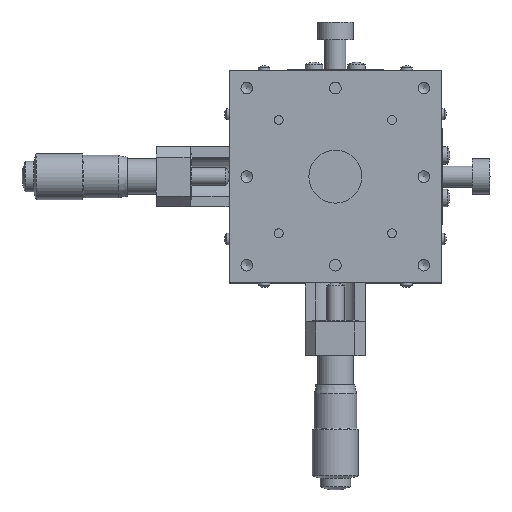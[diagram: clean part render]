
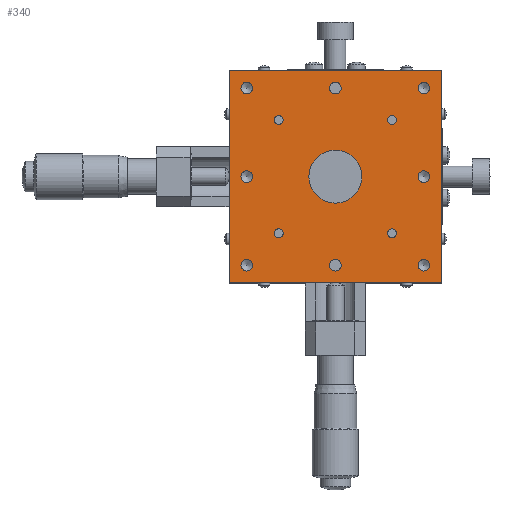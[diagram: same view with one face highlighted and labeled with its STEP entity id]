
A CAD part, top view. The second image highlights one B-rep face of the part: STEP entity #340.
In plain terms, the highlighted planar face has unit normal (0, 0, 1).
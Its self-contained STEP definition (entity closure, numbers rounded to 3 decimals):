
#340 = ADVANCED_FACE( '', ( #871, #872, #873, #874, #875, #876, #877, #878, #879, #880, #881, #882, #883, #884 ), #885, .T. );
#871 = FACE_BOUND( '', #1720, .T. );
#872 = FACE_BOUND( '', #1721, .T. );
#873 = FACE_BOUND( '', #1722, .T. );
#874 = FACE_BOUND( '', #1723, .T. );
#875 = FACE_BOUND( '', #1724, .T. );
#876 = FACE_BOUND( '', #1725, .T. );
#877 = FACE_BOUND( '', #1726, .T. );
#878 = FACE_BOUND( '', #1727, .T. );
#879 = FACE_BOUND( '', #1728, .T. );
#880 = FACE_BOUND( '', #1729, .T. );
#881 = FACE_BOUND( '', #1730, .T. );
#882 = FACE_BOUND( '', #1731, .T. );
#883 = FACE_OUTER_BOUND( '', #1732, .T. );
#884 = FACE_BOUND( '', #1733, .T. );
#885 = PLANE( '', #1734 );
#1720 = EDGE_LOOP( '', ( #2670 ) );
#1721 = EDGE_LOOP( '', ( #2671 ) );
#1722 = EDGE_LOOP( '', ( #2672 ) );
#1723 = EDGE_LOOP( '', ( #2673 ) );
#1724 = EDGE_LOOP( '', ( #2674 ) );
#1725 = EDGE_LOOP( '', ( #2675 ) );
#1726 = EDGE_LOOP( '', ( #2676 ) );
#1727 = EDGE_LOOP( '', ( #2677 ) );
#1728 = EDGE_LOOP( '', ( #2678 ) );
#1729 = EDGE_LOOP( '', ( #2679 ) );
#1730 = EDGE_LOOP( '', ( #2680 ) );
#1731 = EDGE_LOOP( '', ( #2681 ) );
#1732 = EDGE_LOOP( '', ( #2682, #2683, #2684, #2685 ) );
#1733 = EDGE_LOOP( '', ( #2686 ) );
#1734 = AXIS2_PLACEMENT_3D( '', #2687, #2688, #2689 );
#2670 = ORIENTED_EDGE( '', *, *, #4367, .T. );
#2671 = ORIENTED_EDGE( '', *, *, #4368, .T. );
#2672 = ORIENTED_EDGE( '', *, *, #4369, .T. );
#2673 = ORIENTED_EDGE( '', *, *, #4370, .T. );
#2674 = ORIENTED_EDGE( '', *, *, #4371, .T. );
#2675 = ORIENTED_EDGE( '', *, *, #4372, .T. );
#2676 = ORIENTED_EDGE( '', *, *, #4373, .T. );
#2677 = ORIENTED_EDGE( '', *, *, #4374, .T. );
#2678 = ORIENTED_EDGE( '', *, *, #4375, .T. );
#2679 = ORIENTED_EDGE( '', *, *, #4376, .T. );
#2680 = ORIENTED_EDGE( '', *, *, #4377, .T. );
#2681 = ORIENTED_EDGE( '', *, *, #4378, .T. );
#2682 = ORIENTED_EDGE( '', *, *, #4379, .T. );
#2683 = ORIENTED_EDGE( '', *, *, #4283, .T. );
#2684 = ORIENTED_EDGE( '', *, *, #4333, .T. );
#2685 = ORIENTED_EDGE( '', *, *, #4257, .T. );
#2686 = ORIENTED_EDGE( '', *, *, #4380, .T. );
#2687 = CARTESIAN_POINT( '', ( 0., 0., 22. ) );
#2688 = DIRECTION( '', ( 0., 0., 1. ) );
#2689 = DIRECTION( '', ( -1., 0., 0. ) );
#4257 = EDGE_CURVE( '', #4953, #4951, #4954, .T. );
#4283 = EDGE_CURVE( '', #5002, #5000, #5003, .T. );
#4333 = EDGE_CURVE( '', #5000, #4953, #5087, .T. );
#4367 = EDGE_CURVE( '', #5145, #5145, #5146, .T. );
#4368 = EDGE_CURVE( '', #5147, #5147, #5148, .T. );
#4369 = EDGE_CURVE( '', #5149, #5149, #5150, .T. );
#4370 = EDGE_CURVE( '', #5151, #5151, #5152, .T. );
#4371 = EDGE_CURVE( '', #5153, #5153, #5154, .T. );
#4372 = EDGE_CURVE( '', #5155, #5155, #5156, .T. );
#4373 = EDGE_CURVE( '', #5157, #5157, #5158, .T. );
#4374 = EDGE_CURVE( '', #5159, #5159, #5160, .T. );
#4375 = EDGE_CURVE( '', #5161, #5161, #5162, .T. );
#4376 = EDGE_CURVE( '', #5163, #5163, #5164, .T. );
#4377 = EDGE_CURVE( '', #5165, #5165, #5166, .T. );
#4378 = EDGE_CURVE( '', #5167, #5167, #5168, .T. );
#4379 = EDGE_CURVE( '', #4951, #5002, #5169, .T. );
#4380 = EDGE_CURVE( '', #5170, #5170, #5171, .T. );
#4951 = VERTEX_POINT( '', #5955 );
#4953 = VERTEX_POINT( '', #5958 );
#4954 = LINE( '', #5959, #5960 );
#5000 = VERTEX_POINT( '', #6024 );
#5002 = VERTEX_POINT( '', #6027 );
#5003 = LINE( '', #6028, #6029 );
#5087 = LINE( '', #6142, #6143 );
#5145 = VERTEX_POINT( '', #6220 );
#5146 = CIRCLE( '', #6221, 1.25 );
#5147 = VERTEX_POINT( '', #6222 );
#5148 = CIRCLE( '', #6223, 1.25 );
#5149 = VERTEX_POINT( '', #6224 );
#5150 = CIRCLE( '', #6225, 1.25 );
#5151 = VERTEX_POINT( '', #6226 );
#5152 = CIRCLE( '', #6227, 1.25 );
#5153 = VERTEX_POINT( '', #6228 );
#5154 = CIRCLE( '', #6229, 1.65 );
#5155 = VERTEX_POINT( '', #6230 );
#5156 = CIRCLE( '', #6231, 1.65 );
#5157 = VERTEX_POINT( '', #6232 );
#5158 = CIRCLE( '', #6233, 1.65 );
#5159 = VERTEX_POINT( '', #6234 );
#5160 = CIRCLE( '', #6235, 1.65 );
#5161 = VERTEX_POINT( '', #6236 );
#5162 = CIRCLE( '', #6237, 1.65 );
#5163 = VERTEX_POINT( '', #6238 );
#5164 = CIRCLE( '', #6239, 1.65 );
#5165 = VERTEX_POINT( '', #6240 );
#5166 = CIRCLE( '', #6241, 1.65 );
#5167 = VERTEX_POINT( '', #6242 );
#5168 = CIRCLE( '', #6243, 1.65 );
#5169 = LINE( '', #6244, #6245 );
#5170 = VERTEX_POINT( '', #6246 );
#5171 = CIRCLE( '', #6247, 7.5 );
#5955 = CARTESIAN_POINT( '', ( -30., 30., 22. ) );
#5958 = CARTESIAN_POINT( '', ( 30., 30., 22. ) );
#5959 = CARTESIAN_POINT( '', ( 0., 30., 22. ) );
#5960 = VECTOR( '', #7200, 1000. );
#6024 = CARTESIAN_POINT( '', ( 30., -30., 22. ) );
#6027 = CARTESIAN_POINT( '', ( -30., -30., 22. ) );
#6028 = CARTESIAN_POINT( '', ( 0., -30., 22. ) );
#6029 = VECTOR( '', #7229, 1000. );
#6142 = CARTESIAN_POINT( '', ( 30., 0., 22. ) );
#6143 = VECTOR( '', #7286, 1000. );
#6220 = CARTESIAN_POINT( '', ( -16., 14.75, 22. ) );
#6221 = AXIS2_PLACEMENT_3D( '', #7330, #7331, #7332 );
#6222 = CARTESIAN_POINT( '', ( 16., 14.75, 22. ) );
#6223 = AXIS2_PLACEMENT_3D( '', #7333, #7334, #7335 );
#6224 = CARTESIAN_POINT( '', ( 16., -17.25, 22. ) );
#6225 = AXIS2_PLACEMENT_3D( '', #7336, #7337, #7338 );
#6226 = CARTESIAN_POINT( '', ( -16., -17.25, 22. ) );
#6227 = AXIS2_PLACEMENT_3D( '', #7339, #7340, #7341 );
#6228 = CARTESIAN_POINT( '', ( -25., -1.65, 22. ) );
#6229 = AXIS2_PLACEMENT_3D( '', #7342, #7343, #7344 );
#6230 = CARTESIAN_POINT( '', ( -25., 23.35, 22. ) );
#6231 = AXIS2_PLACEMENT_3D( '', #7345, #7346, #7347 );
#6232 = CARTESIAN_POINT( '', ( 0., 23.35, 22. ) );
#6233 = AXIS2_PLACEMENT_3D( '', #7348, #7349, #7350 );
#6234 = CARTESIAN_POINT( '', ( 25., 23.35, 22. ) );
#6235 = AXIS2_PLACEMENT_3D( '', #7351, #7352, #7353 );
#6236 = CARTESIAN_POINT( '', ( 25., -1.65, 22. ) );
#6237 = AXIS2_PLACEMENT_3D( '', #7354, #7355, #7356 );
#6238 = CARTESIAN_POINT( '', ( 25., -26.65, 22. ) );
#6239 = AXIS2_PLACEMENT_3D( '', #7357, #7358, #7359 );
#6240 = CARTESIAN_POINT( '', ( 0., -26.65, 22. ) );
#6241 = AXIS2_PLACEMENT_3D( '', #7360, #7361, #7362 );
#6242 = CARTESIAN_POINT( '', ( -25., -26.65, 22. ) );
#6243 = AXIS2_PLACEMENT_3D( '', #7363, #7364, #7365 );
#6244 = CARTESIAN_POINT( '', ( -30., 0., 22. ) );
#6245 = VECTOR( '', #7366, 1000. );
#6246 = CARTESIAN_POINT( '', ( 7.5, 0., 22. ) );
#6247 = AXIS2_PLACEMENT_3D( '', #7367, #7368, #7369 );
#7200 = DIRECTION( '', ( -1., 0., 0. ) );
#7229 = DIRECTION( '', ( 1., 0., 0. ) );
#7286 = DIRECTION( '', ( 0., 1., 0. ) );
#7330 = CARTESIAN_POINT( '', ( -16., 16., 22. ) );
#7331 = DIRECTION( '', ( 0., 0., -1. ) );
#7332 = DIRECTION( '', ( 0., -1., 0. ) );
#7333 = CARTESIAN_POINT( '', ( 16., 16., 22. ) );
#7334 = DIRECTION( '', ( 0., 0., -1. ) );
#7335 = DIRECTION( '', ( 0., -1., 0. ) );
#7336 = CARTESIAN_POINT( '', ( 16., -16., 22. ) );
#7337 = DIRECTION( '', ( 0., 0., -1. ) );
#7338 = DIRECTION( '', ( 0., -1., 0. ) );
#7339 = CARTESIAN_POINT( '', ( -16., -16., 22. ) );
#7340 = DIRECTION( '', ( 0., 0., -1. ) );
#7341 = DIRECTION( '', ( 0., -1., 0. ) );
#7342 = CARTESIAN_POINT( '', ( -25., 0., 22. ) );
#7343 = DIRECTION( '', ( 0., 0., -1. ) );
#7344 = DIRECTION( '', ( 0., -1., 0. ) );
#7345 = CARTESIAN_POINT( '', ( -25., 25., 22. ) );
#7346 = DIRECTION( '', ( 0., 0., -1. ) );
#7347 = DIRECTION( '', ( 0., -1., 0. ) );
#7348 = CARTESIAN_POINT( '', ( 0., 25., 22. ) );
#7349 = DIRECTION( '', ( 0., 0., -1. ) );
#7350 = DIRECTION( '', ( 0., -1., 0. ) );
#7351 = CARTESIAN_POINT( '', ( 25., 25., 22. ) );
#7352 = DIRECTION( '', ( 0., 0., -1. ) );
#7353 = DIRECTION( '', ( 0., -1., 0. ) );
#7354 = CARTESIAN_POINT( '', ( 25., 0., 22. ) );
#7355 = DIRECTION( '', ( 0., 0., -1. ) );
#7356 = DIRECTION( '', ( 0., -1., 0. ) );
#7357 = CARTESIAN_POINT( '', ( 25., -25., 22. ) );
#7358 = DIRECTION( '', ( 0., 0., -1. ) );
#7359 = DIRECTION( '', ( 0., -1., 0. ) );
#7360 = CARTESIAN_POINT( '', ( 0., -25., 22. ) );
#7361 = DIRECTION( '', ( 0., 0., -1. ) );
#7362 = DIRECTION( '', ( 0., -1., 0. ) );
#7363 = CARTESIAN_POINT( '', ( -25., -25., 22. ) );
#7364 = DIRECTION( '', ( 0., 0., -1. ) );
#7365 = DIRECTION( '', ( 0., -1., 0. ) );
#7366 = DIRECTION( '', ( 0., -1., 0. ) );
#7367 = CARTESIAN_POINT( '', ( 0., 0., 22. ) );
#7368 = DIRECTION( '', ( 0., 0., -1. ) );
#7369 = DIRECTION( '', ( 1., 0., 0. ) );
